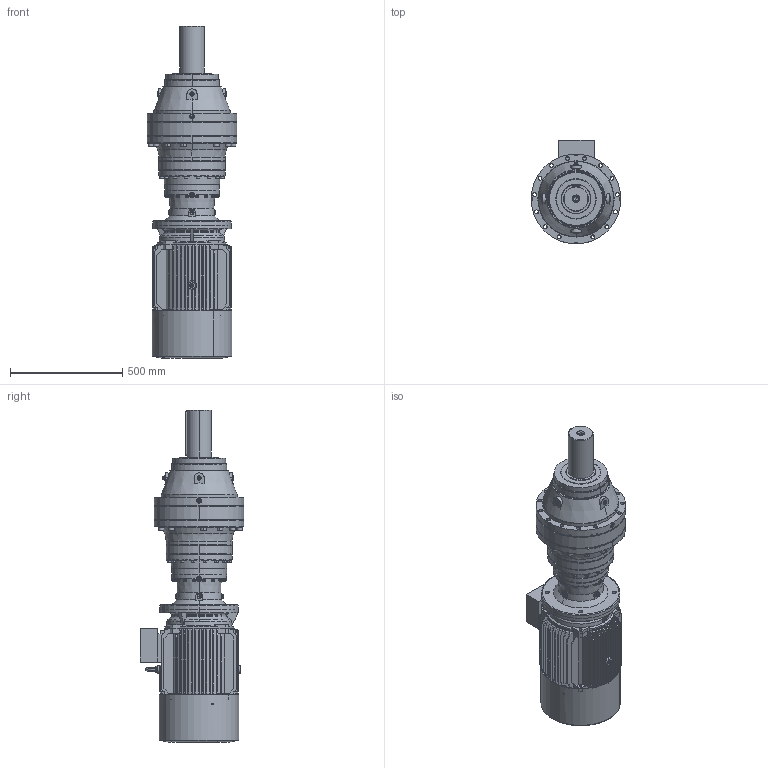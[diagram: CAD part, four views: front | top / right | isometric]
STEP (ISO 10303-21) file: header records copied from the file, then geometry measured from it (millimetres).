
FILE_DESCRIPTION (( 'STEP AP203' ), '1' );
FILE_NAME ('PVL-2703L-HS180M-4.STEP', '2019-05-27T09:31:37', ( '' ), ( '' ), 'SwSTEP 2.0', 'SolidWorks 2012', '' );
FILE_SCHEMA (( 'CONFIG_CONTROL_DESIGN' ));
Products named in the file (15): M3-HS180M-FF-B5; PVL-2703L-HS180M-4; Eyebolts GB_GB_FASTENER_SCREWS_FRS M12_1; Y2-180-4.6.8+ª-¯ª­-È®+_-++ñ; M3-180M-FF-B5; Y2-180MB5+À+¿_-++ñ; Y2-180-4.6.8-ª+---®+_-++ñ; Y2-180+¦i-_-++ñ; Y2-180C++A+¦-¯ª¦+¦_-++ñ; PNL_2703L_0_0_A18_B5_ML43A_FL12A_0_0_0_0_0_0_0_0_0_0_0_M1; 15180B5_Varsayìlan; FL12A_Varsayìlan; ML43A_Varsayìlan; EK2703L_Varsayìlan; P27_Varsayìlan
Assembly tree (14 placements, depth 4):
  PVL-2703L-HS180M-4
    PNL_2703L_0_0_A18_B5_ML43A_FL12A_0_0_0_0_0_0_0_0_0_0_0_M1
      P27_Varsayìlan
      15180B5_Varsayìlan
      ML43A_Varsayìlan
      EK2703L_Varsayìlan
      FL12A_Varsayìlan
    M3-HS180M-FF-B5
      M3-180M-FF-B5
        Y2-180C++A+¦-¯ª¦+¦_-++ñ
        Y2-180+¦i-_-++ñ
        Y2-180-4.6.8-ª+---®+_-++ñ
        Eyebolts GB_GB_FASTENER_SCREWS_FRS M12_1
        Y2-180MB5+À+¿_-++ñ
        Y2-180-4.6.8+ª-¯ª­-È®+_-++ñ
Bounding box: 400 x 463.55 x 1481 mm (x, y, z)
Volume: 58573386.8 mm3; surface area: 4522037.2 mm2
Topology: 16 solids, 16 shells, 3086 faces, 8289 edges, 5320 vertices
Faces by surface type: plane 1433, cylinder 1000, cone 395, bspline 226, torus 32
Entity records: 109506 total; most frequent: CARTESIAN_POINT 31131, ORIENTED_EDGE 16402, DIRECTION 16089, EDGE_CURVE 8201, AXIS2_PLACEMENT_3D 6202, VERTEX_POINT 5320, VECTOR 3685, LINE 3685
